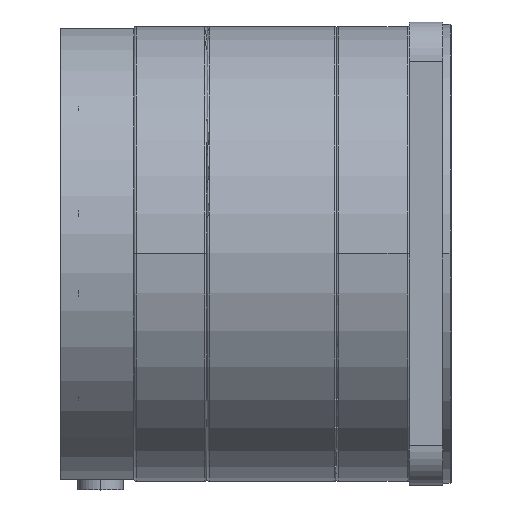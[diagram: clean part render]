
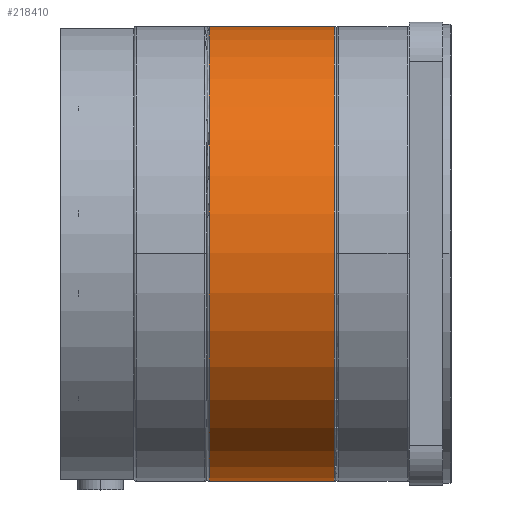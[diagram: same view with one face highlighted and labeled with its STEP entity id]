
A CAD part, top view. The second image highlights one B-rep face of the part: STEP entity #218410.
In plain terms, the highlighted cylindrical face has radius 109 mm (diameter 218 mm), a partial arc.
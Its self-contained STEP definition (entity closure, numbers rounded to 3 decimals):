
#217750=CARTESIAN_POINT('',(-96.,109.,0.));
#217760=VERTEX_POINT('',#217750);
#217790=CARTESIAN_POINT('',(-96.,0.,
0.));
#217800=DIRECTION('',(-1.,0.,0.));
#217810=DIRECTION('',(0.,1.,0.));
#217820=AXIS2_PLACEMENT_3D('',#217790,#217800,#217810);
#217830=CIRCLE('',#217820,109.);
#217840=CARTESIAN_POINT('',(-96.,-109.,0.
));
#217850=VERTEX_POINT('',#217840);
#217860=EDGE_CURVE('',#217850,#217760,#217830,.T.);
#218100=CARTESIAN_POINT('',(-97.,0.,
0.));
#218110=DIRECTION('',(-1.,0.,0.));
#218120=DIRECTION('',(0.,1.,0.));
#218130=AXIS2_PLACEMENT_3D('',#218100,#218110,#218120);
#218140=CYLINDRICAL_SURFACE('',#218130,109.);
#218150=CARTESIAN_POINT('',(-97.,109.,0.));
#218160=DIRECTION('',(-1.,0.,0.));
#218170=VECTOR('',#218160,1.);
#218180=LINE('',#218150,#218170);
#218190=CARTESIAN_POINT('',(-36.,109.,0.));
#218200=VERTEX_POINT('',#218190);
#218210=EDGE_CURVE('',#218200,#217760,#218180,.T.);
#218220=ORIENTED_EDGE('',*,*,#218210,.T.);
#218230=CARTESIAN_POINT('',(-36.,0.,
0.));
#218240=DIRECTION('',(-1.,0.,0.));
#218250=DIRECTION('',(0.,1.,0.));
#218260=AXIS2_PLACEMENT_3D('',#218230,#218240,#218250);
#218270=CIRCLE('',#218260,109.);
#218280=CARTESIAN_POINT('',(-36.,-109.,0.
));
#218290=VERTEX_POINT('',#218280);
#218300=EDGE_CURVE('',#218290,#218200,#218270,.T.);
#218310=ORIENTED_EDGE('',*,*,#218300,.T.);
#218320=CARTESIAN_POINT('',(-97.,-109.,0.
));
#218330=DIRECTION('',(-1.,0.,0.));
#218340=VECTOR('',#218330,1.);
#218350=LINE('',#218320,#218340);
#218360=EDGE_CURVE('',#218290,#217850,#218350,.T.);
#218370=ORIENTED_EDGE('',*,*,#218360,.F.);
#218380=ORIENTED_EDGE('',*,*,#217860,.F.);
#218390=EDGE_LOOP('',(#218380,#218370,#218310,#218220));
#218400=FACE_OUTER_BOUND('',#218390,.T.);
#218410=ADVANCED_FACE('',(#218400),#218140,.T.);
